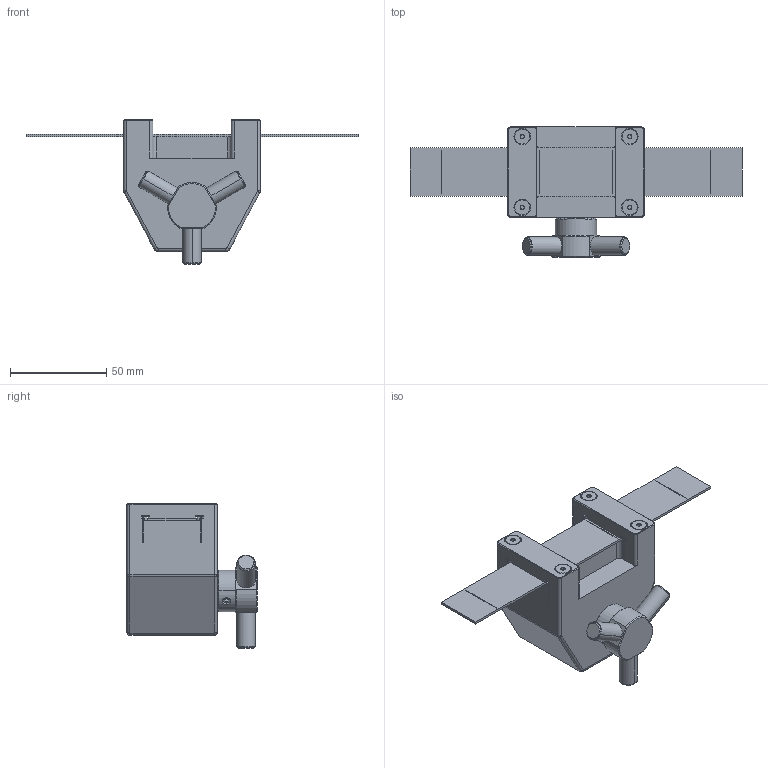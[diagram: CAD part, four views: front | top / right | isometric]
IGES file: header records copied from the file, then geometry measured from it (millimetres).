
Global section: file name: No Iges File Name specified; native system: Autodesk Inventor 2010; preprocessor: AutoDesk Inventor Iges Exporter R2010; author: mlampen; date: 20170420.125710; units: inch
Bounding box: 172.72 x 67.69 x 75.36 mm (x, y, z)
Volume: 193429.1 mm3; surface area: 39492.5 mm2
Topology: 7 solids, 7 shells, 417 faces, 1214 edges, 837 vertices
Faces by surface type: cylinder 134, plane 122, revolution 76, bspline 47, cone 38
Full cylindrical faces by diameter (mm): 2.474 x16, 3.505 x18
